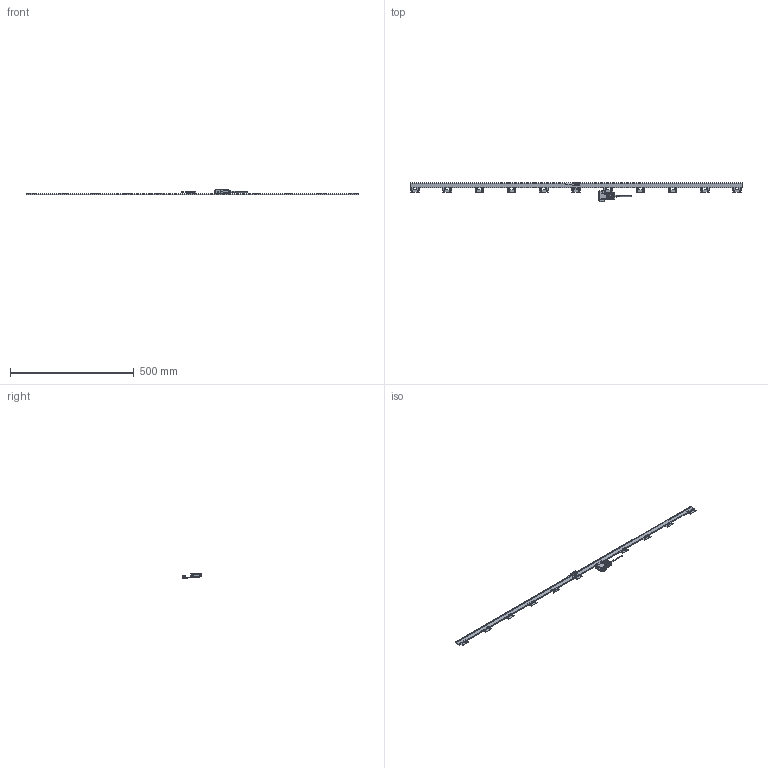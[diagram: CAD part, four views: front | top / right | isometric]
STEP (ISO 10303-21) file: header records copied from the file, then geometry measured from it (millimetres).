
FILE_DESCRIPTION(('Creo Elements/Direct Modeling STEP Export'),'2;1');
FILE_NAME('ST46EZA-1300A.stp','2017-09-07T 9:11:51',(''),(''),'Creo Elements/Direct Modeling STEP processor for AP214 (Solid Model)','Creo Elements/Direct Modeling 18.1B 29-Sep-2012 (C) Parametric Technology GmbH','');
FILE_SCHEMA(('AUTOMOTIVE_DESIGN { 1 0 10303 214 1 1 1 1 }'));
Length unit declared in the file: millimetre
Products named in the file (4): Detector_Head; IF_Unit; Scale_1300; ST46EZA_1300A
Assembly tree (3 placements, depth 2):
  ST46EZA_1300A
    Scale_1300
    IF_Unit
    Detector_Head
Bounding box: 1340 x 78.25 x 21.95 mm (x, y, z)
Volume: 146378.7 mm3; surface area: 98634.7 mm2
Topology: 2 solids, 7 shells, 2776 faces, 7466 edges, 4864 vertices
Faces by surface type: plane 1675, cylinder 925, extrusion 63, cone 50, torus 30, bspline 29, revolution 4
Entity records: 91650 total; most frequent: CARTESIAN_POINT 22814, ORIENTED_EDGE 14923, DIRECTION 13221, EDGE_CURVE 7466, VECTOR 5003, LINE 4975, VERTEX_POINT 4864, AXIS2_PLACEMENT_3D 4106
